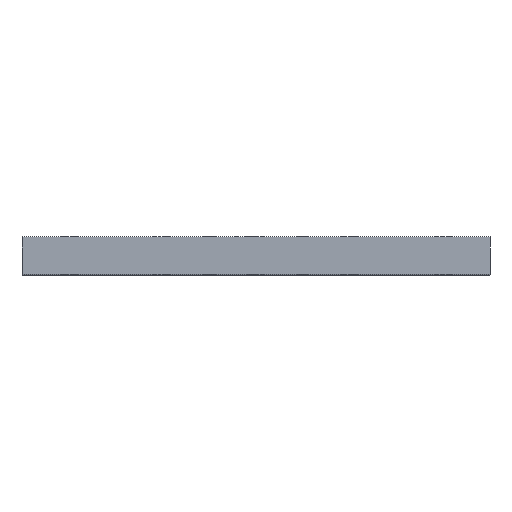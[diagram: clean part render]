
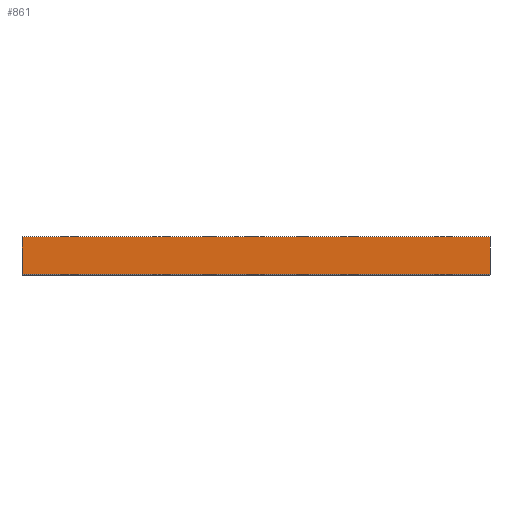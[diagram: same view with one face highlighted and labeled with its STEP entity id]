
A CAD part, top view. The second image highlights one B-rep face of the part: STEP entity #861.
In plain terms, the highlighted planar face has unit normal (0, 0, 1).
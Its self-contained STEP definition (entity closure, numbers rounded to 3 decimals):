
#82=PLANE('',#989);
#121=FACE_OUTER_BOUND('',#160,.T.);
#160=EDGE_LOOP('',(#708,#709,#710,#711));
#267=LINE('',#1458,#312);
#268=LINE('',#1461,#313);
#269=LINE('',#1463,#314);
#270=LINE('',#1464,#315);
#312=VECTOR('',#1232,10.);
#313=VECTOR('',#1235,10.);
#314=VECTOR('',#1236,10.);
#315=VECTOR('',#1237,10.);
#453=VERTEX_POINT('',#1451);
#456=VERTEX_POINT('',#1456);
#457=VERTEX_POINT('',#1460);
#458=VERTEX_POINT('',#1462);
#563=EDGE_CURVE('',#453,#456,#267,.T.);
#564=EDGE_CURVE('',#457,#453,#268,.T.);
#565=EDGE_CURVE('',#458,#456,#269,.T.);
#566=EDGE_CURVE('',#457,#458,#270,.T.);
#708=ORIENTED_EDGE('',*,*,#564,.T.);
#709=ORIENTED_EDGE('',*,*,#563,.T.);
#710=ORIENTED_EDGE('',*,*,#565,.F.);
#711=ORIENTED_EDGE('',*,*,#566,.F.);
#861=ADVANCED_FACE('',(#121),#82,.T.);
#989=AXIS2_PLACEMENT_3D('',#1459,#1233,#1234);
#1232=DIRECTION('',(0.,1.,0.));
#1233=DIRECTION('center_axis',(0.,0.,1.));
#1234=DIRECTION('ref_axis',(1.,0.,0.));
#1235=DIRECTION('',(1.,0.,0.));
#1236=DIRECTION('',(1.,0.,0.));
#1237=DIRECTION('',(0.,1.,0.));
#1451=CARTESIAN_POINT('',(0.,0.,0.));
#1456=CARTESIAN_POINT('',(0.,10.,0.));
#1458=CARTESIAN_POINT('',(0.,0.,0.));
#1459=CARTESIAN_POINT('Origin',(-125.,0.,0.));
#1460=CARTESIAN_POINT('',(-125.,0.,0.));
#1461=CARTESIAN_POINT('',(-125.,0.,0.));
#1462=CARTESIAN_POINT('',(-125.,10.,0.));
#1463=CARTESIAN_POINT('',(-125.,10.,0.));
#1464=CARTESIAN_POINT('',(-125.,0.,0.));
